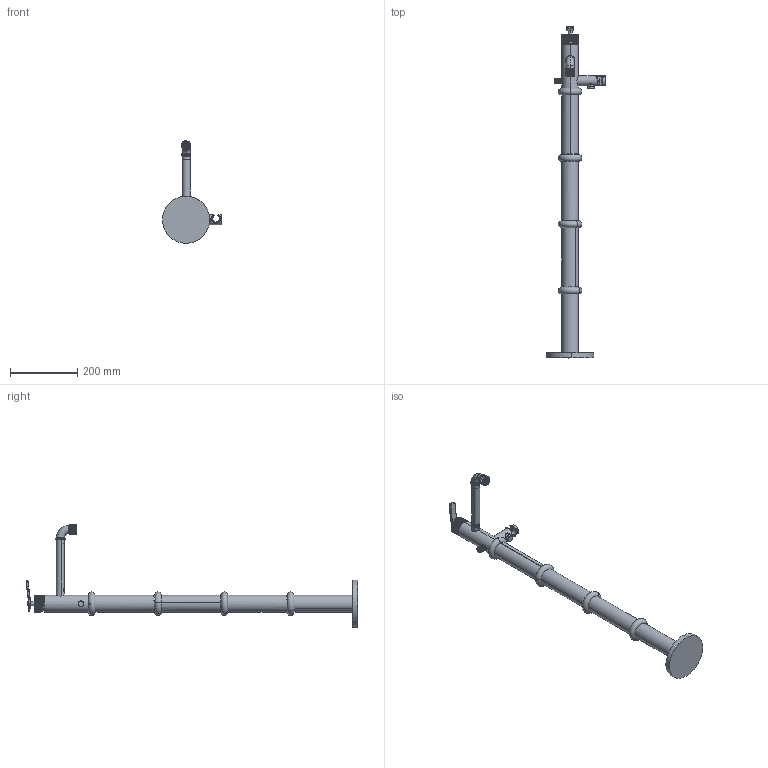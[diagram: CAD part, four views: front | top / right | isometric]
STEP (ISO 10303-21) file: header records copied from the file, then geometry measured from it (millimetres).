
FILE_DESCRIPTION (( 'STEP AP214' ), '1' );
FILE_NAME ('79117910 x architetti.STEP', '2024-10-18T11:48:28', ( '' ), ( '' ), 'SwSTEP 2.0', 'SolidWorks 2020', '' );
FILE_SCHEMA (( 'AUTOMOTIVE_DESIGN' ));
Length unit declared in the file: millimetre
Products named in the file (1): 79117910 x architetti
Bounding box: 174.8 x 988.3 x 304.73 mm (x, y, z)
Volume: 2121953.8 mm3; surface area: 494802.3 mm2
Topology: 4 solids, 23 shells, 1910 faces, 5332 edges, 3477 vertices
Faces by surface type: plane 1017, cylinder 632, bspline 95, cone 88, torus 78
Entity records: 96334 total; most frequent: CARTESIAN_POINT 29090, ORIENTED_EDGE 10652, DIRECTION 8084, EDGE_CURVE 5326, VERTEX_POINT 3477, AXIS2_PLACEMENT_3D 2727, VECTOR 2630, LINE 2630
